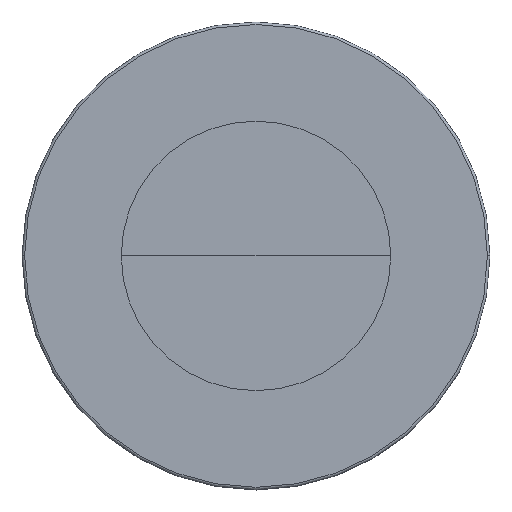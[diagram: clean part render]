
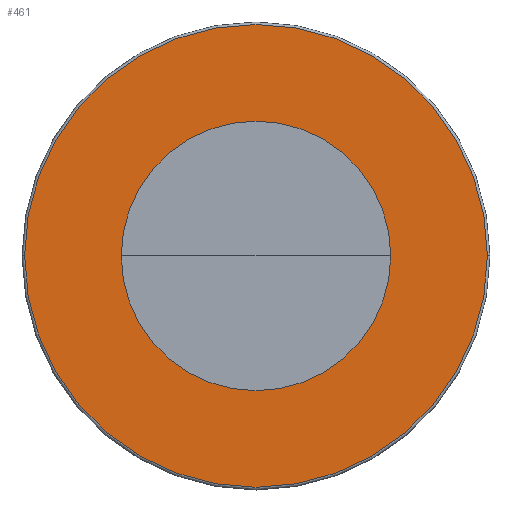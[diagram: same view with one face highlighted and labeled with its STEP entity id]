
A CAD part, top view. The second image highlights one B-rep face of the part: STEP entity #461.
In plain terms, the highlighted planar face has unit normal (0, 0, 1).
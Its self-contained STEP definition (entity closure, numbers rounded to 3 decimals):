
#9=CARTESIAN_POINT('',(0.,0.,4.076));
#10=DIRECTION('',(0.,0.,-1.));
#11=DIRECTION('',(1.,0.,0.));
#12=AXIS2_PLACEMENT_3D('',#9,#10,#11);
#14=CARTESIAN_POINT('',(0.,0.,4.076));
#15=DIRECTION('',(0.,0.,1.));
#16=DIRECTION('',(1.,0.,0.));
#17=AXIS2_PLACEMENT_3D('',#14,#15,#16);
#19=CARTESIAN_POINT('',(0.,0.,4.076));
#20=DIRECTION('',(0.,0.,-1.));
#21=DIRECTION('',(1.,0.,0.));
#22=AXIS2_PLACEMENT_3D('',#19,#20,#21);
#24=CARTESIAN_POINT('',(0.,0.,4.076));
#25=DIRECTION('',(0.,0.,-1.));
#26=DIRECTION('',(-1.,0.,0.));
#27=AXIS2_PLACEMENT_3D('',#24,#25,#26);
#380=CARTESIAN_POINT('',(2.65,0.,4.076));
#382=VERTEX_POINT('',#380);
#383=CARTESIAN_POINT('',(-2.65,0.,4.076));
#384=VERTEX_POINT('',#383);
#406=CARTESIAN_POINT('',(4.55,0.,4.076));
#407=CARTESIAN_POINT('',(-4.55,0.,4.076));
#408=VERTEX_POINT('',#406);
#409=VERTEX_POINT('',#407);
#446=CARTESIAN_POINT('',(0.,0.,4.076));
#447=DIRECTION('',(0.,0.,1.));
#448=DIRECTION('',(-1.,0.,0.));
#449=AXIS2_PLACEMENT_3D('',#446,#447,#448);
#450=PLANE('',#449);
#452=ORIENTED_EDGE('',*,*,#451,.T.);
#454=ORIENTED_EDGE('',*,*,#453,.T.);
#455=EDGE_LOOP('',(#452,#454));
#456=FACE_OUTER_BOUND('',#455,.F.);
#457=ORIENTED_EDGE('',*,*,#440,.F.);
#458=ORIENTED_EDGE('',*,*,#424,.T.);
#459=EDGE_LOOP('',(#457,#458));
#460=FACE_BOUND('',#459,.F.);
#461=ADVANCED_FACE('',(#456,#460),#450,.T.);
#13=CIRCLE('',#12,2.65);
#18=CIRCLE('',#17,2.65);
#23=CIRCLE('',#22,4.55);
#28=CIRCLE('',#27,4.55);
#424=EDGE_CURVE('',#382,#384,#18,.T.);
#440=EDGE_CURVE('',#382,#384,#13,.T.);
#451=EDGE_CURVE('',#408,#409,#23,.T.);
#453=EDGE_CURVE('',#409,#408,#28,.T.);
